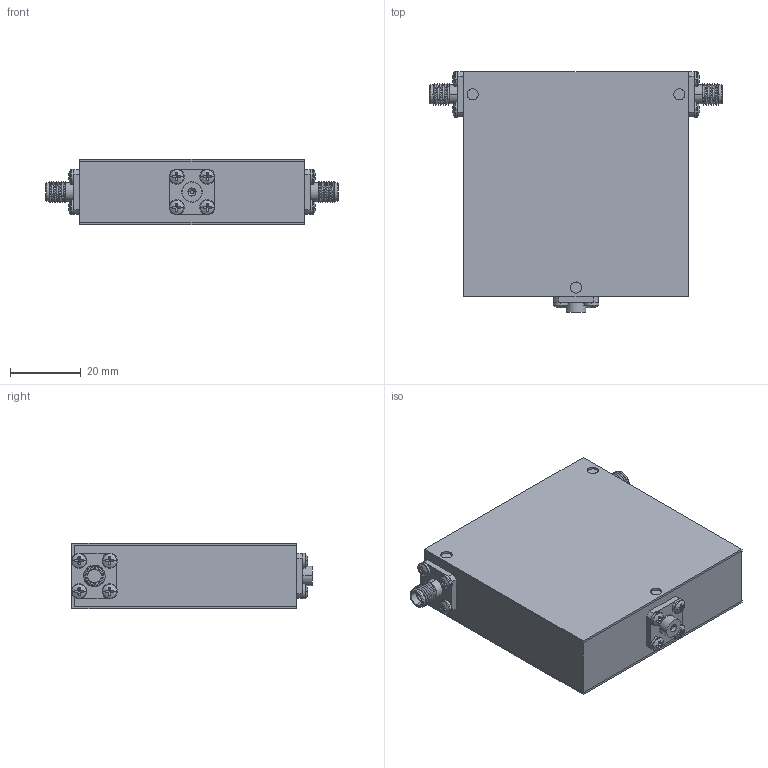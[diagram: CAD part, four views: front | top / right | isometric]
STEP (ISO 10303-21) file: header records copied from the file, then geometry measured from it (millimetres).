
FILE_DESCRIPTION (( 'STEP AP214' ), '1' );
FILE_NAME ('D3I0405 2.5x2.5x0.73 FF.step', '2021-12-01T20:55:38', ( '' ), ( '' ), 'SwSTEP 2.0', 'SolidWorks 2016', '' );
FILE_SCHEMA (( 'AUTOMOTIVE_DESIGN' ));
Length unit declared in the file: inch
Products named in the file (6): D3I0405 2.5x2.5x0.73; D3I0405 2.5x2.5x0.73 FF; D3I0405 2.5x2.475x0.68; pan cross head_ai_CR-PHMS 0.086-56x0.125x0.125-N; Delta SMA-Female 0.500 flange Threaded; 030013-1A Same Base thickness as connectors
Assembly tree (17 placements, depth 2):
  D3I0405 2.5x2.5x0.73 FF
    D3I0405 2.5x2.475x0.68
    D3I0405 2.5x2.5x0.73
    030013-1A Same Base thickness as connectors
    pan cross head_ai_CR-PHMS 0.086-56x0.125x0.125-N  x12
    Delta SMA-Female 0.500 flange Threaded  x2
Bounding box: 82.55 x 68.03 x 18.54 mm (x, y, z)
Volume: 75925.6 mm3; surface area: 33544.7 mm2
Topology: 17 solids, 17 shells, 414 faces, 942 edges, 582 vertices
Faces by surface type: plane 228, cylinder 122, torus 30, sphere 24, bspline 6, cone 4
Entity records: 4765 total; most frequent: CARTESIAN_POINT 1369, DIRECTION 717, ORIENTED_EDGE 594, EDGE_CURVE 297, AXIS2_PLACEMENT_3D 289, VERTEX_POINT 191, EDGE_LOOP 160, CIRCLE 150
